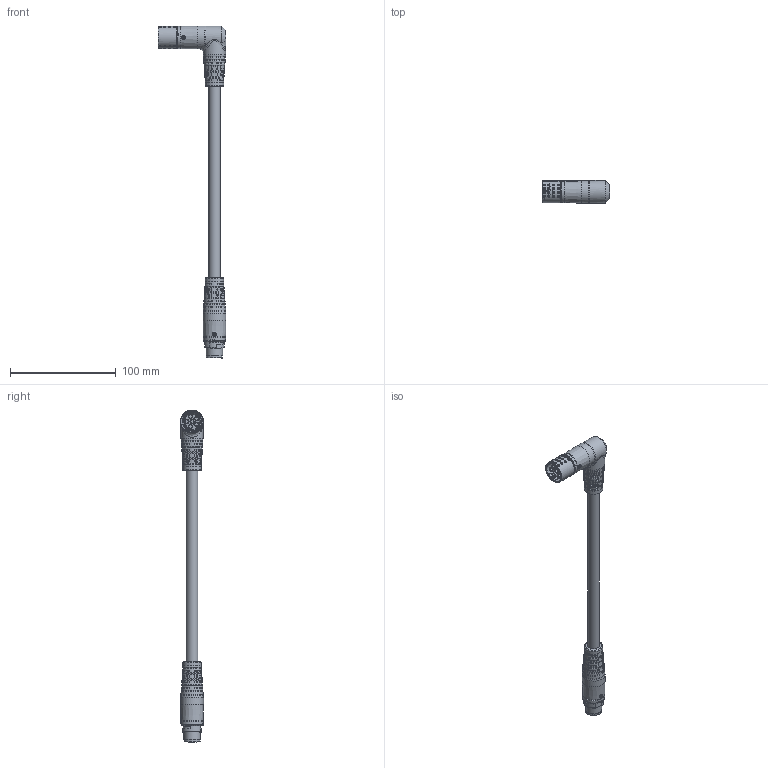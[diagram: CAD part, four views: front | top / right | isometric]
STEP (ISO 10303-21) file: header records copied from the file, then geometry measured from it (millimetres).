
FILE_DESCRIPTION (( 'STEP AP203' ), '1' );
FILE_NAME ('1138019_W-TEC_15K_STI-BU-90°_R_STEP.STEP', '2023-09-05T08:36:42', ( '' ), ( '' ), 'SwSTEP 2.0', 'SolidWorks 2021', '' );
FILE_SCHEMA (( 'CONFIG_CONTROL_DESIGN' ));
Length unit declared in the file: millimetre
Products named in the file (1): 1138019_W-TEC_15K_STI-BU-90起R_STEP
Bounding box: 64.26 x 21.84 x 314.29 mm (x, y, z)
Surface area: 22931 mm2 (no closed solid volume)
Topology: 0 solids, 29 shells, 876 faces, 3566 edges, 2516 vertices
Faces by surface type: bspline 370, plane 218, cylinder 215, cone 51, torus 19, sphere 3
Full cylindrical faces by diameter (mm): 1.6 x3, 3.3 x6, 4 x2, 4.2 x3, 4.4 x3, 11.1 x1, 15.2 x1, 15.4 x1, 17.384 x1, 17.397 x1, 18.4 x1, 21.038 x1, 21.24 x1, 21.72 x2
Entity records: 60657 total; most frequent: CARTESIAN_POINT 37523, ORIENTED_EDGE 5097, EDGE_CURVE 3381, DIRECTION 3261, VERTEX_POINT 2466, B_SPLINE_CURVE_WITH_KNOTS 1664, AXIS2_PLACEMENT_3D 1188, EDGE_LOOP 1049
